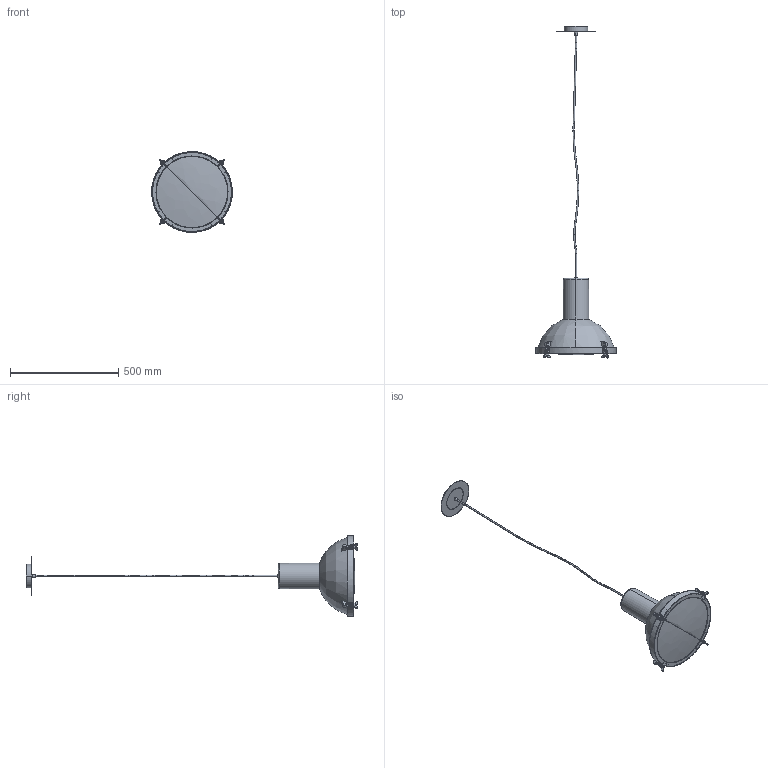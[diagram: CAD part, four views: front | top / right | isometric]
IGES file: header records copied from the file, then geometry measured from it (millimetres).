
Start section: SolidWorks IGES file using analytic representation for surfaces
Global section: file name: C:\Users\tungari.NEMOLIGHTING\Desktop\3D\PENDANT\3D_PROJECTEUR365_PENDANT\DEFEATURE_PROJECTEUR365_PENDANT\3D_PROJECTEUR365_PENDANT.IGS; native system: SolidWorks 2016; preprocessor: SolidWorks 2016; author: tungari; date: 180226.103345; units: millimetre
Bounding box: 372.88 x 1530.47 x 372.88 mm (x, y, z)
Surface area: 780766.1 mm2 (no closed solid volume)
Topology: 0 solids, 0 shells, 561 faces, 7634 edges, 7623 vertices
Faces by surface type: bspline 369, revolution 192
